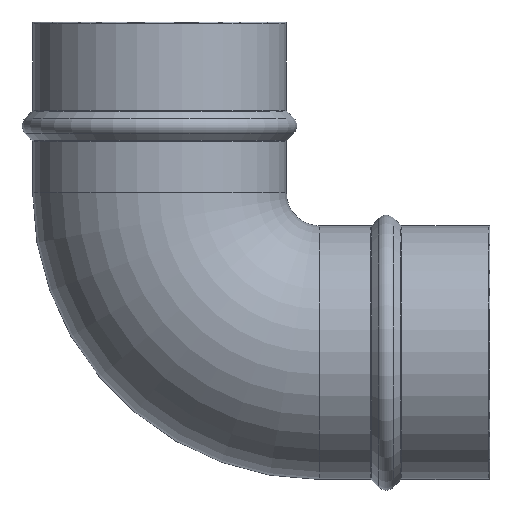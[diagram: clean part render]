
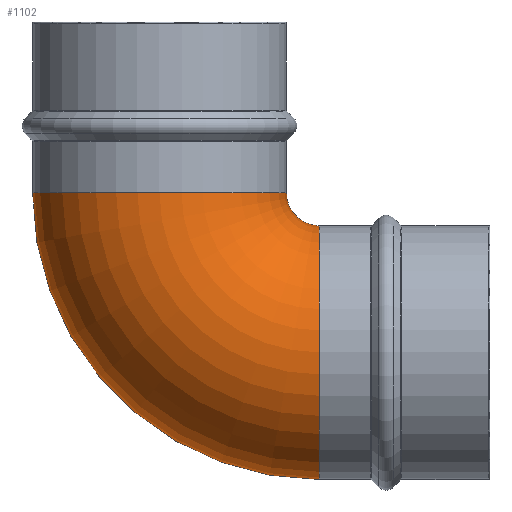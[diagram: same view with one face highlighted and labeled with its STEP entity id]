
A CAD part, top view. The second image highlights one B-rep face of the part: STEP entity #1102.
In plain terms, the highlighted toroidal (fillet/blend) face has major radius 53.2 mm and minor radius 42.25 mm.
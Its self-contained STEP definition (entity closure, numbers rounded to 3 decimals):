
#181=CARTESIAN_POINT('',(53.2,0.,0.));
#182=DIRECTION('',(1.,0.,0.));
#183=DIRECTION('',(0.,1.,0.));
#184=AXIS2_PLACEMENT_3D('',#181,#182,#183);
#289=CARTESIAN_POINT('',(53.2,53.2,0.));
#290=DIRECTION('',(0.,0.,1.));
#291=DIRECTION('',(-1.,0.,0.));
#292=AXIS2_PLACEMENT_3D('',#289,#290,#291);
#389=CARTESIAN_POINT('',(0.,53.2,0.));
#390=DIRECTION('',(0.,-1.,0.));
#391=DIRECTION('',(1.,0.,0.));
#392=AXIS2_PLACEMENT_3D('',#389,#390,#391);
#397=CARTESIAN_POINT('',(53.2,53.2,0.));
#398=DIRECTION('',(0.,0.,1.));
#399=DIRECTION('',(-1.,0.,0.));
#400=AXIS2_PLACEMENT_3D('',#397,#398,#399);
#673=CARTESIAN_POINT('',(42.25,53.2,0.));
#674=CARTESIAN_POINT('',(-42.25,53.2,0.));
#675=VERTEX_POINT('',#673);
#676=VERTEX_POINT('',#674);
#681=CARTESIAN_POINT('',(53.2,42.25,0.));
#682=CARTESIAN_POINT('',(53.2,-42.25,0.));
#683=VERTEX_POINT('',#681);
#684=VERTEX_POINT('',#682);
#1091=CARTESIAN_POINT('',(53.2,53.2,0.));
#1092=DIRECTION('',(0.,0.,1.));
#1093=DIRECTION('',(1.,0.,0.));
#1094=AXIS2_PLACEMENT_3D('',#1091,#1092,#1093);
#1095=TOROIDAL_SURFACE('',#1094,53.2,42.25);
#1096=ORIENTED_EDGE('',*,*,#1071,.F.);
#1097=ORIENTED_EDGE('',*,*,#999,.T.);
#1098=ORIENTED_EDGE('',*,*,#912,.T.);
#1099=ORIENTED_EDGE('',*,*,#996,.F.);
#1100=EDGE_LOOP('',(#1096,#1097,#1098,#1099));
#1101=FACE_OUTER_BOUND('',#1100,.F.);
#185=CIRCLE('',#184,42.25);
#293=CIRCLE('',#292,95.45);
#393=CIRCLE('',#392,42.25);
#401=CIRCLE('',#400,10.95);
#912=EDGE_CURVE('',#683,#684,#185,.T.);
#996=EDGE_CURVE('',#676,#684,#293,.T.);
#999=EDGE_CURVE('',#675,#683,#401,.T.);
#1071=EDGE_CURVE('',#675,#676,#393,.T.);
#1102=ADVANCED_FACE('',(#1101),#1095,.T.);
